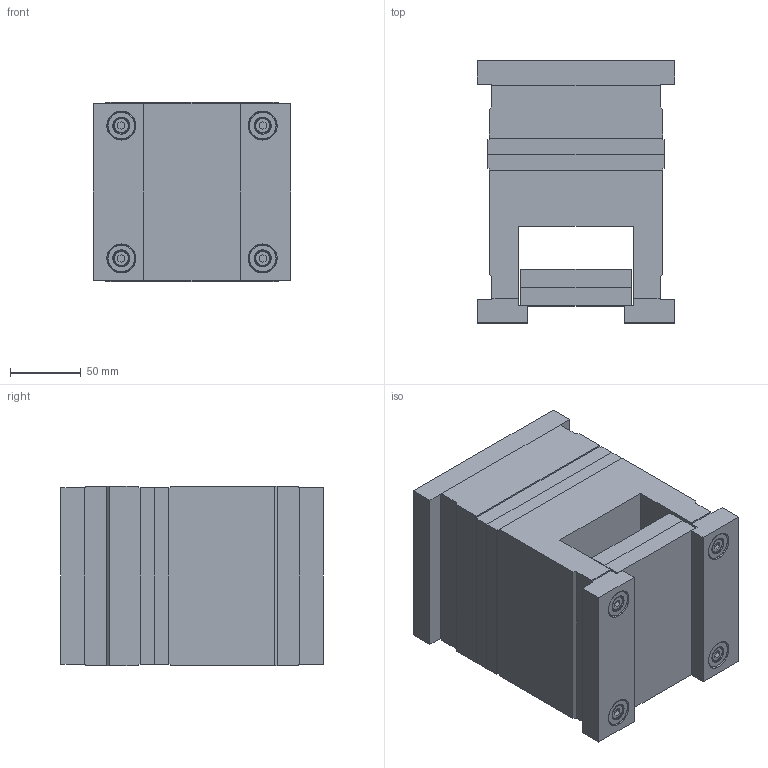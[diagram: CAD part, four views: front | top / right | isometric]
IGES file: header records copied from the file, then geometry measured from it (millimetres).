
Start section: SolidWorks IGES FILE using analytic representation for surfaces
Global section: file name: C:\Documents and Settings\K.P\My Documents\My Webs\almo\iges\1251.IGS; native system: SolidWorks 2001Plus by SolidWorks Corporation; preprocessor: Version 5.3; author: Pavel; date: 020709.080309; units: millimetre
Bounding box: 140 x 185.5 x 127 mm (x, y, z)
Surface area: 304718.3 mm2 (no closed solid volume)
Topology: 0 solids, 0 shells, 706 faces, 10312 edges, 10304 vertices
Faces by surface type: revolution 452, bspline 254
